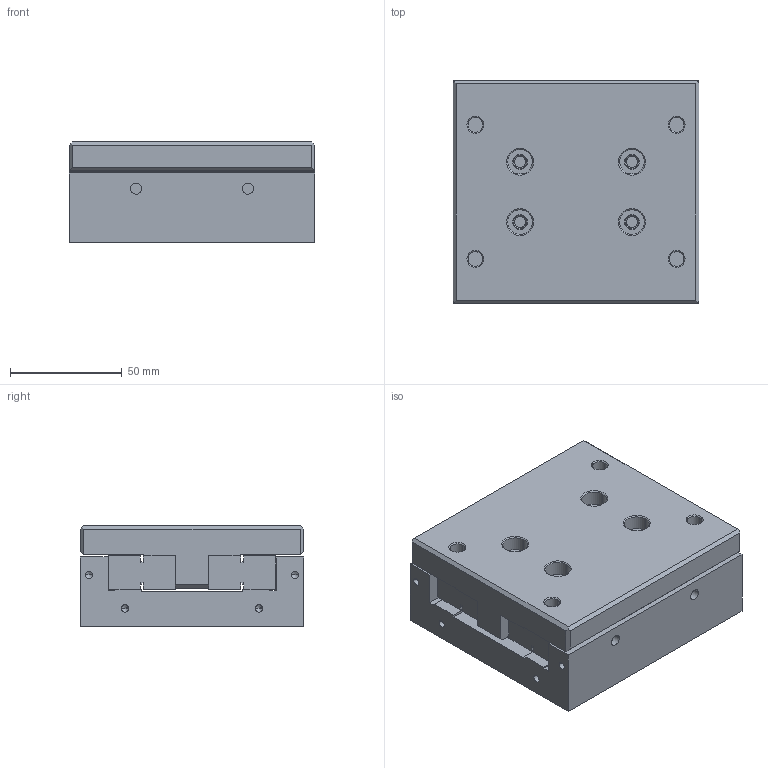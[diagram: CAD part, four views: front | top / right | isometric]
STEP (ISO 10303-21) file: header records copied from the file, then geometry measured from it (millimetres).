
FILE_DESCRIPTION((''),'2;1');
FILE_NAME('CRU6110_ASM','2017-01-24T',('Administrator'),(''),'PRO/ENGINEER BY PARAMETRIC TECHNOLOGY CORPORATION, 2013150','PRO/ENGINEER BY PARAMETRIC TECHNOLOGY CORPORATION, 2013150','');
FILE_SCHEMA(('CONFIG_CONTROL_DESIGN'));
Length unit declared in the file: millimetre
Products named in the file (4): CRU6110-01; CRU6110-GV6100; CRU6110-02; CRU6110_ASM
Assembly tree (4 placements, depth 2):
  CRU6110_ASM
    CRU6110-01
    CRU6110-GV6100  x2
    CRU6110-02
Bounding box: 110 x 100 x 45 mm (x, y, z)
Volume: 448678.5 mm3; surface area: 98658.4 mm2
Topology: 4 solids, 4 shells, 302 faces, 748 edges, 460 vertices
Faces by surface type: cylinder 112, plane 106, cone 84
Entity records: 7537 total; most frequent: DIRECTION 1377, CARTESIAN_POINT 1250, ORIENTED_EDGE 1216, EDGE_CURVE 608, AXIS2_PLACEMENT_3D 511, VERTEX_POINT 384, VECTOR 355, LINE 355
